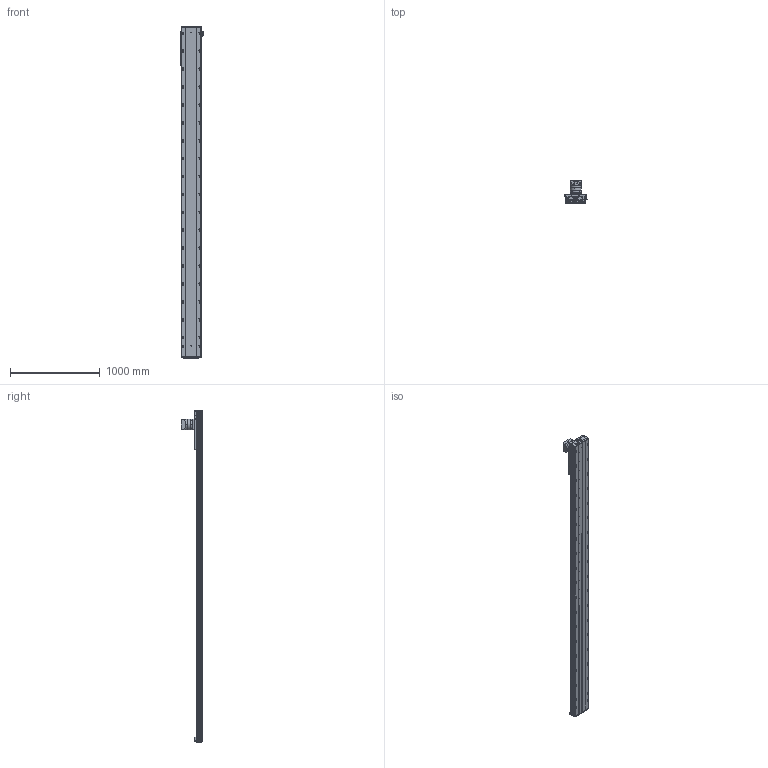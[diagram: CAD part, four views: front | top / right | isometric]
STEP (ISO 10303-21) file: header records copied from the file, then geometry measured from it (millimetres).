
FILE_DESCRIPTION (( 'STEP AP203' ), '1' );
FILE_NAME ('RY220-C-300-UK.SLDASM_3200.step', '2022-08-01T06:00:51', ( '' ), ( '' ), 'SwSTEP 2.0', 'SolidWorks 2016', '' );
FILE_SCHEMA (( 'CONFIG_CONTROL_DESIGN' ));
Length unit declared in the file: millimetre
Products named in the file (10): RY220菁釱MK-300_3200; RY140直线电机感应器674光电安装座; 覜茼ん674; RY220-C-300-UK.SLDASM_3200; RY220喘沭綴裔啣; RY220喘沭賑輸; RY220喘沭俋离覜茼え; PF115L1-S2-22-58-110-145-M8; 滅袉蝶輸ㄗG412隅秶ㄘ; RY220-齿条模组电机安装板
Assembly tree (12 placements, depth 2):
  RY220-C-300-UK.SLDASM_3200
    RY220菁釱MK-300_3200
    RY220喘沭賑輸
    RY220-齿条模组电机安装板
    PF115L1-S2-22-58-110-145-M8
    RY220喘沭綴裔啣  x2
    滅袉蝶輸ㄗG412隅秶ㄘ  x2
    RY140直线电机感应器674光电安装座
    覜茼ん674  x2
    RY220喘沭俋离覜茼え
Bounding box: 247 x 244.5 x 3709 mm (x, y, z)
Volume: 24232367.5 mm3; surface area: 5020739 mm2
Topology: 18 solids, 26 shells, 2492 faces, 6727 edges, 4176 vertices
Faces by surface type: cylinder 1235, plane 751, cone 344, bspline 162
Entity records: 79421 total; most frequent: CARTESIAN_POINT 21452, DIRECTION 12043, ORIENTED_EDGE 11666, EDGE_CURVE 5833, AXIS2_PLACEMENT_3D 4635, VERTEX_POINT 3802, EDGE_LOOP 2951, LINE 2773
